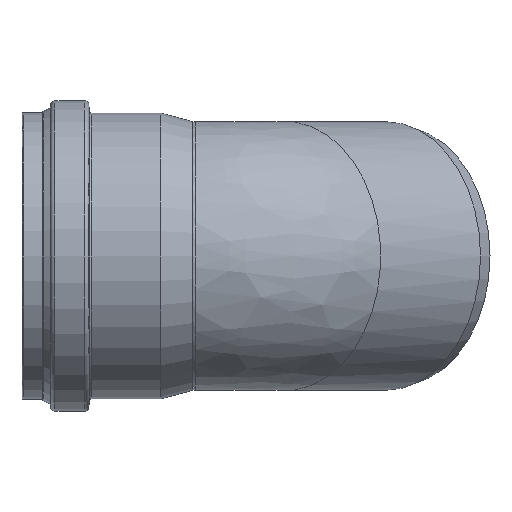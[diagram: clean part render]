
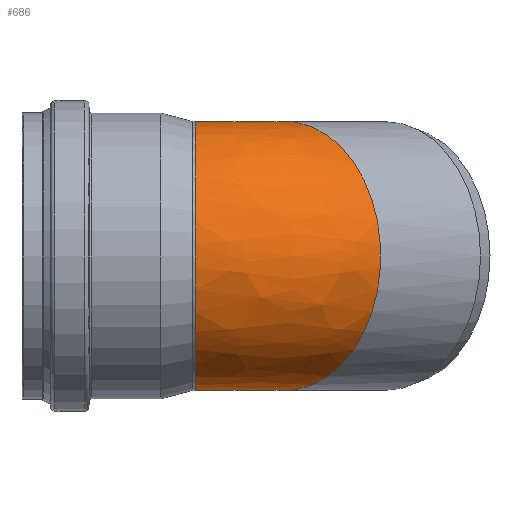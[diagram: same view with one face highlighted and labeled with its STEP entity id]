
A CAD part, left-side view. The second image highlights one B-rep face of the part: STEP entity #686.
In plain terms, the highlighted free-form (B-spline) face has degree [2, 2] with [9, 3] control points.
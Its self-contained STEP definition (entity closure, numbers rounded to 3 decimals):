
#36=(
BOUNDED_SURFACE()
B_SPLINE_SURFACE(2,2,((#1172,#1173,#1174),(#1175,#1176,#1177),(#1178,#1179,
#1180),(#1181,#1182,#1183),(#1184,#1185,#1186),(#1187,#1188,#1189),(#1190,
#1191,#1192),(#1193,#1194,#1195),(#1196,#1197,#1198)),.UNSPECIFIED.,.F.,
 .F.,.F.)
B_SPLINE_SURFACE_WITH_KNOTS((3,2,2,2,3),(3,3),(-2.827,-1.413,
0.,1.413,2.827),(-0.785,0.),
 .UNSPECIFIED.)
GEOMETRIC_REPRESENTATION_ITEM()
RATIONAL_B_SPLINE_SURFACE(((1.,0.924,1.),(0.761,
0.703,0.761),(1.,0.924,1.),(0.761,
0.703,0.761),(1.,0.924,1.),(0.761,
0.703,0.761),(1.,0.924,1.),(0.761,
0.703,0.761),(1.,0.924,1.)))
REPRESENTATION_ITEM('')
SURFACE()
);
#55=FACE_OUTER_BOUND('',#97,.T.);
#97=EDGE_LOOP('',(#459,#460));
#187=CIRCLE('',#756,125.15);
#188=CIRCLE('',#757,125.15);
#272=VERTEX_POINT('',#1199);
#273=VERTEX_POINT('',#1200);
#346=EDGE_CURVE('',#272,#273,#187,.T.);
#347=EDGE_CURVE('',#273,#272,#188,.T.);
#459=ORIENTED_EDGE('',*,*,#346,.T.);
#460=ORIENTED_EDGE('',*,*,#347,.T.);
#686=ADVANCED_FACE('',(#55),#36,.F.);
#756=AXIS2_PLACEMENT_3D('',#1201,#895,#896);
#757=AXIS2_PLACEMENT_3D('',#1202,#897,#898);
#895=DIRECTION('center_axis',(-0.707,0.707,0.));
#896=DIRECTION('ref_axis',(0.707,0.707,0.));
#897=DIRECTION('center_axis',(0.,-1.,0.));
#898=DIRECTION('ref_axis',(1.,0.,0.));
#1172=CARTESIAN_POINT('Ctrl Pts',(119.,15.667,38.749));
#1173=CARTESIAN_POINT('Ctrl Pts',(119.,15.667,38.749));
#1174=CARTESIAN_POINT('Ctrl Pts',(119.,15.667,38.749));
#1175=CARTESIAN_POINT('Ctrl Pts',(95.606,-7.728,140.352));
#1176=CARTESIAN_POINT('Ctrl Pts',(85.916,1.963,140.352));
#1177=CARTESIAN_POINT('Ctrl Pts',(85.916,15.667,140.352));
#1178=CARTESIAN_POINT('Ctrl Pts',(20.983,-82.351,123.603));
#1179=CARTESIAN_POINT('Ctrl Pts',(-19.617,-41.75,123.603));
#1180=CARTESIAN_POINT('Ctrl Pts',(-19.617,15.667,123.603));
#1181=CARTESIAN_POINT('Ctrl Pts',(-53.64,-156.973,106.854));
#1182=CARTESIAN_POINT('Ctrl Pts',(-125.15,-85.464,106.854));
#1183=CARTESIAN_POINT('Ctrl Pts',(-125.15,15.667,106.854));
#1184=CARTESIAN_POINT('Ctrl Pts',(-53.64,-156.973,0.));
#1185=CARTESIAN_POINT('Ctrl Pts',(-125.15,-85.464,0.));
#1186=CARTESIAN_POINT('Ctrl Pts',(-125.15,15.667,0.));
#1187=CARTESIAN_POINT('Ctrl Pts',(-53.64,-156.973,-106.854));
#1188=CARTESIAN_POINT('Ctrl Pts',(-125.15,-85.464,-106.854));
#1189=CARTESIAN_POINT('Ctrl Pts',(-125.15,15.667,-106.854));
#1190=CARTESIAN_POINT('Ctrl Pts',(20.983,-82.351,-123.603));
#1191=CARTESIAN_POINT('Ctrl Pts',(-19.617,-41.75,-123.603));
#1192=CARTESIAN_POINT('Ctrl Pts',(-19.617,15.667,-123.603));
#1193=CARTESIAN_POINT('Ctrl Pts',(95.606,-7.728,-140.352));
#1194=CARTESIAN_POINT('Ctrl Pts',(85.916,1.963,-140.352));
#1195=CARTESIAN_POINT('Ctrl Pts',(85.916,15.667,-140.352));
#1196=CARTESIAN_POINT('Ctrl Pts',(119.,15.667,-38.749));
#1197=CARTESIAN_POINT('Ctrl Pts',(119.,15.667,-38.749));
#1198=CARTESIAN_POINT('Ctrl Pts',(119.,15.667,-38.749));
#1199=CARTESIAN_POINT('',(119.,15.667,-38.749));
#1200=CARTESIAN_POINT('',(119.,15.667,38.749));
#1201=CARTESIAN_POINT('Origin',(34.854,-68.479,0.));
#1202=CARTESIAN_POINT('Origin',(0.,15.667,
0.));
